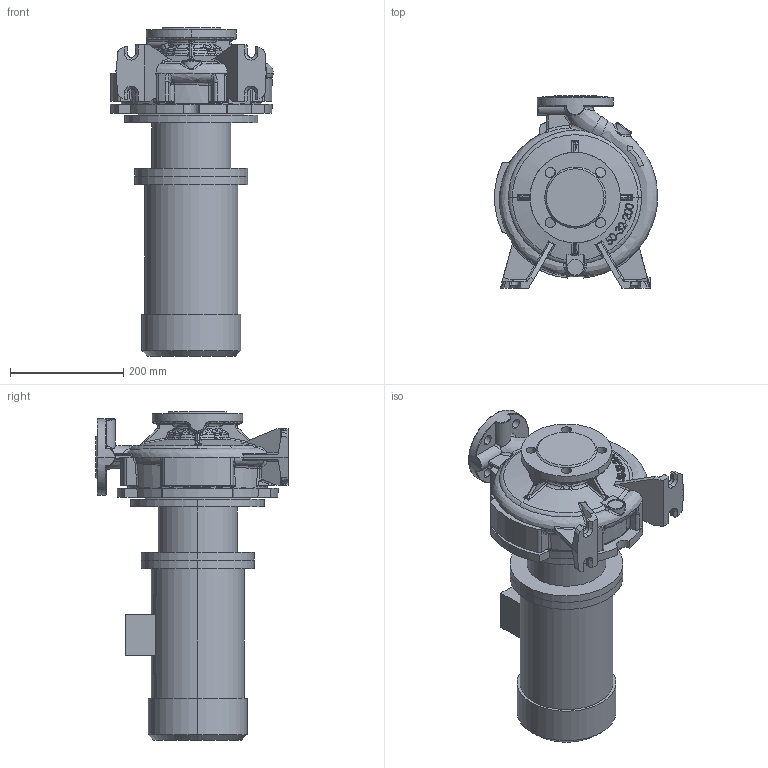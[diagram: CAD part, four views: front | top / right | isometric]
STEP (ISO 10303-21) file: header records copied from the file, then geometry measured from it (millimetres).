
FILE_DESCRIPTION (( 'STEP AP214' ), '1' );
FILE_NAME ('KRM 50-32-200-4-1,5.STEP', '2026-04-23T09:44:25', ( '' ), ( '' ), 'SwSTEP 2.0', 'SolidWorks 2016', '' );
FILE_SCHEMA (( 'AUTOMOTIVE_DESIGN' ));
Length unit declared in the file: millimetre
Products named in the file (1): KRM 50-32-200-4-1,5
Bounding box: 288.64 x 340 x 580.8 mm (x, y, z)
Volume: 16684480.5 mm3; surface area: 922625.2 mm2
Topology: 4 solids, 4 shells, 918 faces, 2286 edges, 1391 vertices
Faces by surface type: bspline 346, plane 206, cylinder 186, torus 78, cone 75, sphere 27
Entity records: 63615 total; most frequent: CARTESIAN_POINT 34616, ORIENTED_EDGE 4538, DIRECTION 3125, EDGE_CURVE 2269, VERTEX_POINT 1391, AXIS2_PLACEMENT_3D 1297, EDGE_LOOP 966, UNCERTAINTY_MEASURE_WITH_UNIT 924
